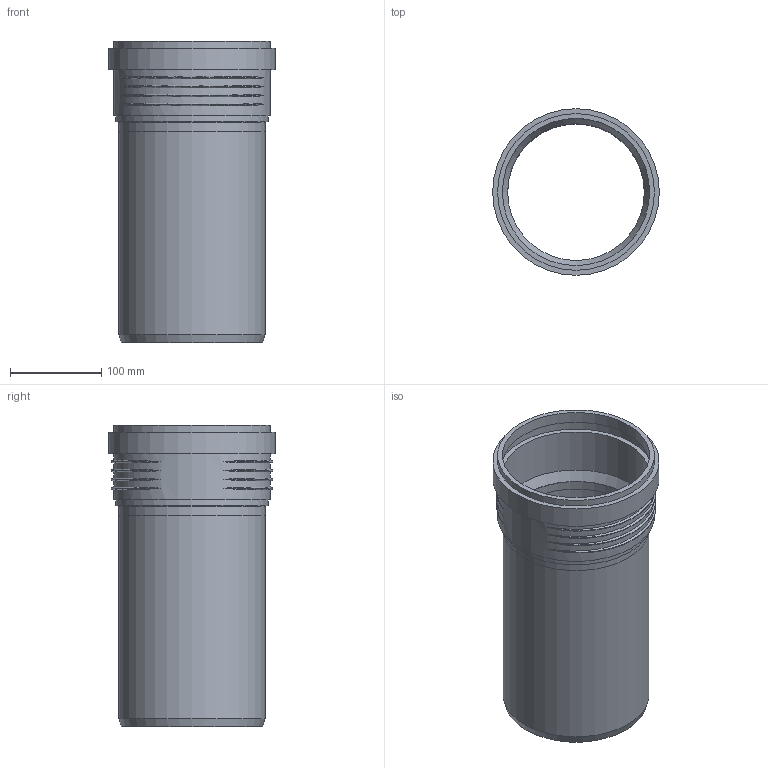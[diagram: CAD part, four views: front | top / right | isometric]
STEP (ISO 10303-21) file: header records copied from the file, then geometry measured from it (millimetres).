
FILE_DESCRIPTION(/* description */ (''),/* implementation_level */ '2;1');
FILE_NAME(/* name */ 'Z:\Geberit\Export\NewStep\390701.stp',/* time_stamp */ '2014-04-02T08:16:20+02:00',/* author */ ('ML'),/* organization */ (''),/* preprocessor_version */ 'ST-DEVELOPER v15.2',/* originating_system */ 'Autodesk Inventor 2014',/* authorisation */ '');
FILE_SCHEMA (('AUTOMOTIVE_DESIGN { 1 0 10303 214 3 1 1 }'));
Length unit declared in the file: millimetre
Products named in the file (3): 861674; 861587ohne; 390701
Bounding box: 182.6 x 182.6 x 330.6 mm (x, y, z)
Volume: 919506.6 mm3; surface area: 367173.2 mm2
Topology: 2 solids, 2 shells, 47 faces, 104 edges, 71 vertices
Faces by surface type: torus 24, cylinder 11, plane 10, cone 2
Full cylindrical faces by diameter (mm): 149.85 x2, 160.25 x2, 161.4 x2, 166.6 x1, 171.8 x2, 172.2 x1, 182.6 x1
Entity records: 2003 total; most frequent: CARTESIAN_POINT 962, DIRECTION 182, ORIENTED_EDGE 174, AXIS2_PLACEMENT_3D 91, EDGE_CURVE 87, EDGE_LOOP 78, VERTEX_POINT 71, STYLED_ITEM 49
